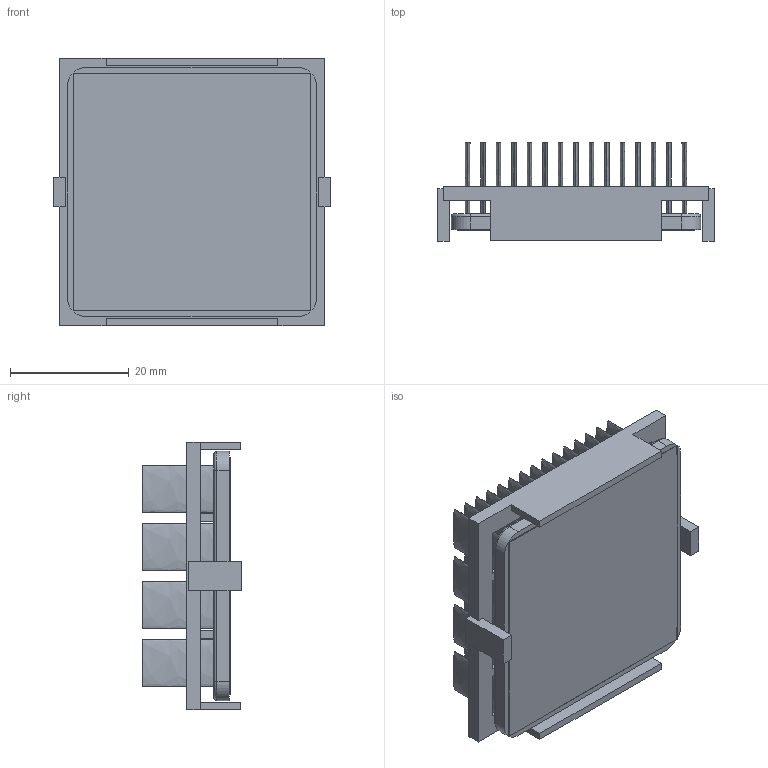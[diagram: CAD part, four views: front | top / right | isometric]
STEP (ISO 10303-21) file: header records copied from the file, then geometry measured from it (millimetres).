
FILE_DESCRIPTION (( 'STEP AP214' ), '1' );
FILE_NAME ('INM42.5001-15W-2.6BU.STEP', '2023-02-28T00:10:01', ( '' ), ( '' ), 'SwSTEP 2.0', 'SolidWorks 2020', '' );
FILE_SCHEMA (( 'AUTOMOTIVE_DESIGN' ));
Length unit declared in the file: inch
Products named in the file (1): INM42.5001-15W-2.6BU
Bounding box: 46.7 x 16.6 x 45.1 mm (x, y, z)
Volume: 10631 mm3; surface area: 21936.9 mm2
Topology: 3 solids, 3 shells, 258 faces, 568 edges, 376 vertices
Faces by surface type: plane 126, bspline 120, cylinder 8, torus 4
Entity records: 10728 total; most frequent: CARTESIAN_POINT 2763, ORIENTED_EDGE 1136, DIRECTION 626, EDGE_CURVE 568, VERTEX_POINT 376, EDGE_LOOP 320, LINE 308, VECTOR 308
